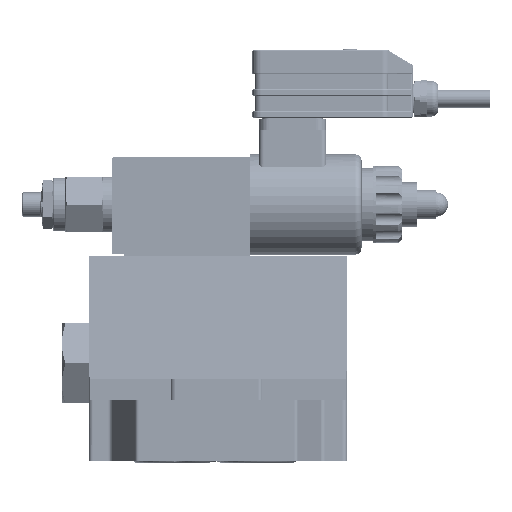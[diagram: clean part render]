
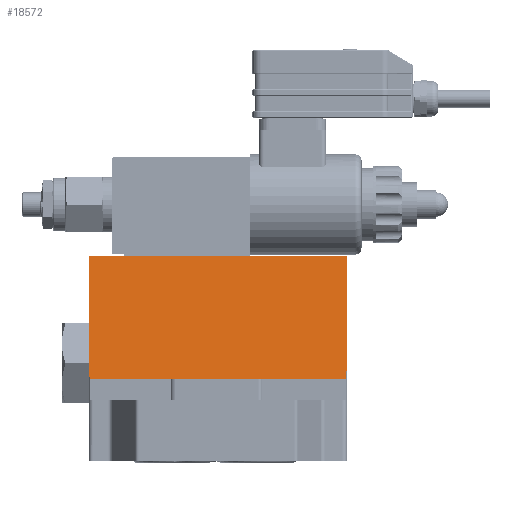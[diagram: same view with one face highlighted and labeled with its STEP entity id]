
A CAD part, front view. The second image highlights one B-rep face of the part: STEP entity #18572.
In plain terms, the highlighted planar face has unit normal (0, -0.991, 0.133).
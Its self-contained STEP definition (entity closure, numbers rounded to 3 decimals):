
#780=ELLIPSE('',#52853,15.083,2.);
#781=ELLIPSE('',#52856,15.083,2.);
#1988=PLANE('',#52904);
#8288=LINE('',#122058,#11637);
#8297=LINE('',#122077,#11646);
#8303=LINE('',#122101,#11652);
#8310=LINE('',#122116,#11659);
#8332=LINE('',#122184,#11681);
#8350=LINE('',#122222,#11699);
#11637=VECTOR('',#63473,1.);
#11646=VECTOR('',#63484,1.);
#11652=VECTOR('',#63506,1.);
#11659=VECTOR('',#63517,1.);
#11681=VECTOR('',#63587,1.);
#11699=VECTOR('',#63625,1.);
#18572=ADVANCED_FACE('',(#21124),#1988,.F.);
#21124=FACE_OUTER_BOUND('',#23820,.T.);
#23820=EDGE_LOOP('',(#34972,#34973,#34974,#34975,#34976,#34977,#34978,#34979));
#34972=ORIENTED_EDGE('',*,*,#46430,.F.);
#34973=ORIENTED_EDGE('',*,*,#46487,.F.);
#34974=ORIENTED_EDGE('',*,*,#46411,.F.);
#34975=ORIENTED_EDGE('',*,*,#46461,.F.);
#34976=ORIENTED_EDGE('',*,*,#46465,.F.);
#34977=ORIENTED_EDGE('',*,*,#46423,.T.);
#34978=ORIENTED_EDGE('',*,*,#46402,.T.);
#34979=ORIENTED_EDGE('',*,*,#46457,.F.);
#40459=VERTEX_POINT('',#122059);
#40460=VERTEX_POINT('',#122060);
#40466=VERTEX_POINT('',#122075);
#40468=VERTEX_POINT('',#122078);
#40478=VERTEX_POINT('',#122102);
#40483=VERTEX_POINT('',#122113);
#40484=VERTEX_POINT('',#122117);
#40503=VERTEX_POINT('',#122176);
#46402=EDGE_CURVE('',#40459,#40460,#8288,.T.);
#46411=EDGE_CURVE('',#40466,#40468,#8297,.T.);
#46423=EDGE_CURVE('',#40478,#40459,#8303,.T.);
#46430=EDGE_CURVE('',#40483,#40484,#8310,.T.);
#46457=EDGE_CURVE('',#40484,#40460,#780,.T.);
#46461=EDGE_CURVE('',#40503,#40466,#781,.T.);
#46465=EDGE_CURVE('',#40478,#40503,#8332,.T.);
#46487=EDGE_CURVE('',#40468,#40483,#8350,.T.);
#52853=AXIS2_PLACEMENT_3D('',#122170,#63570,#63571);
#52856=AXIS2_PLACEMENT_3D('',#122177,#63578,#63579);
#52904=AXIS2_PLACEMENT_3D('',#122294,#63715,#63716);
#63473=DIRECTION('',(0.,-0.133,-0.991));
#63484=DIRECTION('',(-1.,0.,0.));
#63506=DIRECTION('',(-1.,0.,0.));
#63517=DIRECTION('',(-1.,0.,0.));
#63570=DIRECTION('',(0.,0.991,-0.133));
#63571=DIRECTION('',(0.,-0.133,-0.991));
#63578=DIRECTION('',(0.,0.991,-0.133));
#63579=DIRECTION('',(0.,-0.133,-0.991));
#63587=DIRECTION('',(0.,-0.133,-0.991));
#63625=DIRECTION('',(-1.,0.,0.));
#63715=DIRECTION('',(0.,0.991,-0.133));
#63716=DIRECTION('',(0.,0.133,0.991));
#122058=CARTESIAN_POINT('',(-54.53,-64.201,84.));
#122059=CARTESIAN_POINT('',(-54.53,-64.201,84.));
#122060=CARTESIAN_POINT('',(-54.53,-70.205,39.122));
#122075=CARTESIAN_POINT('',(60.941,-71.559,29.));
#122077=CARTESIAN_POINT('',(61.47,-71.559,29.));
#122078=CARTESIAN_POINT('',(23.42,-71.559,29.));
#122101=CARTESIAN_POINT('',(61.47,-64.201,84.));
#122102=CARTESIAN_POINT('',(61.47,-64.201,84.));
#122113=CARTESIAN_POINT('',(-17.58,-71.559,29.));
#122116=CARTESIAN_POINT('',(61.47,-71.559,29.));
#122117=CARTESIAN_POINT('',(-54.002,-71.559,29.));
#122170=CARTESIAN_POINT('',(-52.53,-70.205,39.122));
#122176=CARTESIAN_POINT('',(61.47,-70.205,39.122));
#122177=CARTESIAN_POINT('',(59.47,-70.205,39.122));
#122184=CARTESIAN_POINT('',(61.47,-64.201,84.));
#122222=CARTESIAN_POINT('',(23.42,-71.559,29.));
#122294=CARTESIAN_POINT('',(61.47,-64.201,84.));
